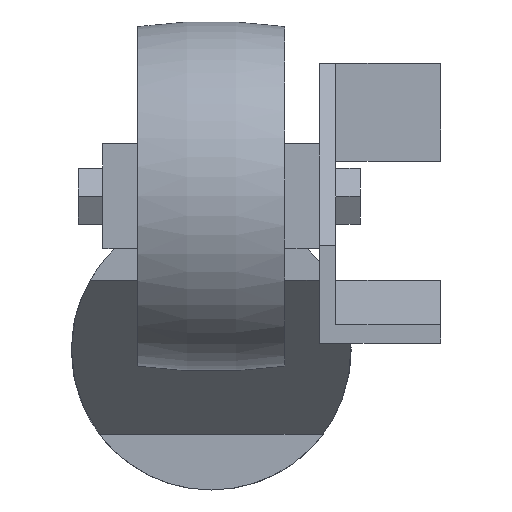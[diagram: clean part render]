
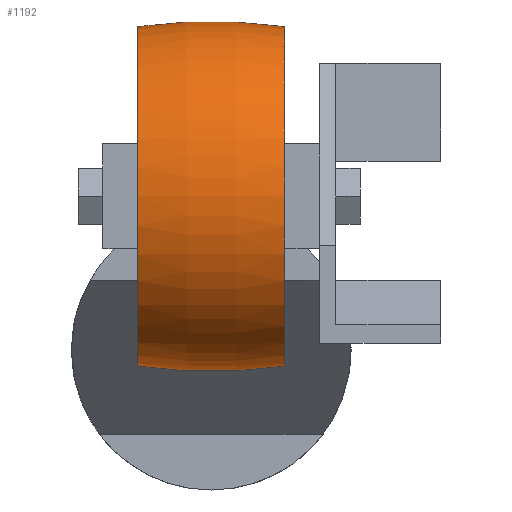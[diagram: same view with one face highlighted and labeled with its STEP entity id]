
A CAD part, front view. The second image highlights one B-rep face of the part: STEP entity #1192.
In plain terms, the highlighted toroidal (fillet/blend) face has major radius 50 mm and minor radius 75 mm.
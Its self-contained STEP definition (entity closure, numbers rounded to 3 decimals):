
#10 = TOROIDAL_SURFACE ( 'NONE', #647, -50., 75. ) ;
#50 = FACE_OUTER_BOUND ( 'NONE', #1189, .T. ) ;
#83 = CARTESIAN_POINT ( 'NONE',  ( -10.5, -42., 46.261 ) ) ;
#132 = DIRECTION ( 'NONE',  ( 0., -1., 0. ) ) ;
#171 = ORIENTED_EDGE ( 'NONE', *, *, #329, .T. ) ;
#191 = DIRECTION ( 'NONE',  ( -1., 0., 0. ) ) ;
#219 = DIRECTION ( 'NONE',  ( 0., 0., 1. ) ) ;
#230 = EDGE_CURVE ( 'NONE', #298, #686, #1406, .T. ) ;
#234 = CARTESIAN_POINT ( 'NONE',  ( -10.5, -42., -2.261 ) ) ;
#236 = VERTEX_POINT ( 'NONE', #234 ) ;
#241 = CARTESIAN_POINT ( 'NONE',  ( 0., -42., 72. ) ) ;
#261 = CIRCLE ( 'NONE', #1325, 75. ) ;
#298 = VERTEX_POINT ( 'NONE', #381 ) ;
#315 = ORIENTED_EDGE ( 'NONE', *, *, #673, .F. ) ;
#329 = EDGE_CURVE ( 'NONE', #686, #956, #1546, .T. ) ;
#343 = CARTESIAN_POINT ( 'NONE',  ( -10.5, -42., 22. ) ) ;
#381 = CARTESIAN_POINT ( 'NONE',  ( 10.5, -42., -2.261 ) ) ;
#518 = DIRECTION ( 'NONE',  ( -1., 0., 0. ) ) ;
#647 = AXIS2_PLACEMENT_3D ( 'NONE', #860, #191, #717 ) ;
#673 = EDGE_CURVE ( 'NONE', #298, #236, #261, .T. ) ;
#686 = VERTEX_POINT ( 'NONE', #1473 ) ;
#717 = DIRECTION ( 'NONE',  ( 0., 0., 1. ) ) ;
#722 = DIRECTION ( 'NONE',  ( -1., 0., 0. ) ) ;
#802 = CARTESIAN_POINT ( 'NONE',  ( 0., -42., -28. ) ) ;
#860 = CARTESIAN_POINT ( 'NONE',  ( 0., -42., 22. ) ) ;
#956 = VERTEX_POINT ( 'NONE', #83 ) ;
#1169 = CARTESIAN_POINT ( 'NONE',  ( 10.5, -42., 22. ) ) ;
#1189 = EDGE_LOOP ( 'NONE', ( #315, #1656, #171, #1265 ) ) ;
#1192 = ADVANCED_FACE ( 'NONE', ( #50 ), #10, .T. ) ;
#1193 = DIRECTION ( 'NONE',  ( 0., 0., 1. ) ) ;
#1204 = DIRECTION ( 'NONE',  ( 0., 0., -1. ) ) ;
#1265 = ORIENTED_EDGE ( 'NONE', *, *, #1713, .F. ) ;
#1292 = AXIS2_PLACEMENT_3D ( 'NONE', #343, #722, #219 ) ;
#1325 = AXIS2_PLACEMENT_3D ( 'NONE', #241, #1434, #1193 ) ;
#1406 = CIRCLE ( 'NONE', #1437, 24.261 ) ;
#1434 = DIRECTION ( 'NONE',  ( 0., 1., 0. ) ) ;
#1437 = AXIS2_PLACEMENT_3D ( 'NONE', #1169, #518, #1720 ) ;
#1473 = CARTESIAN_POINT ( 'NONE',  ( 10.5, -42., 46.261 ) ) ;
#1546 = CIRCLE ( 'NONE', #1684, 75. ) ;
#1632 = CIRCLE ( 'NONE', #1292, 24.261 ) ;
#1656 = ORIENTED_EDGE ( 'NONE', *, *, #230, .T. ) ;
#1684 = AXIS2_PLACEMENT_3D ( 'NONE', #802, #132, #1204 ) ;
#1713 = EDGE_CURVE ( 'NONE', #236, #956, #1632, .T. ) ;
#1720 = DIRECTION ( 'NONE',  ( 0., 0., 1. ) ) ;
